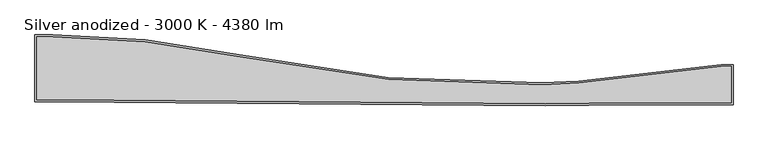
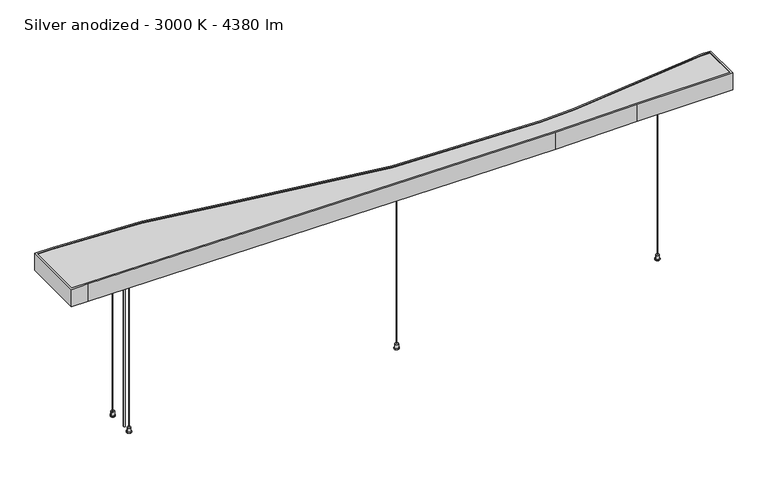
"""IFC4 building model written with IfcOpenShell, lengths in millimetres: light fixture geometry, KLUŚ - MIFOR - MI-WAVE-03 : Silver anodized - 3000 K - 4380 lm."""

import ifcopenshell
import ifcopenshell.guid

model = None  # the IFC model being written
_history = None  # IfcOwnerHistory: only IFC2X3 demands one
_inside = {}  # id of a spatial element -> (the spatial element, [elements in it])
_under = {}  # id of a project, library or spatial element -> (it, [spatial elements below it])
_declared = {}  # id of a project -> (the project, [libraries it declares])
_typed = {}  # id of a type object -> (the type object, [elements of that type])
_made_of = {}  # id of a material, layer set ... -> (it, [elements and type objects made of it])


def new_model(schema):
    """Start an empty IFC model of exactly this schema.

    Asked for "IFC4X3", IfcOpenShell would pick the latest addendum, in which some entities
    have other attributes; the version numbers below select the first issue.
    IFC2X3 requires an IfcOwnerHistory on every rooted entity: one is made here for all.
    """
    global model, _history
    if schema == "IFC4X3":
        model = ifcopenshell.file(schema_version=(4, 3, 0, 0))
    else:
        model = ifcopenshell.file(schema=schema)
    _inside.clear()
    _under.clear()
    _declared.clear()
    _typed.clear()
    _made_of.clear()
    _history = None
    if model.schema == "IFC2X3":
        org = make("IfcOrganization", Name="unknown")
        user = make(
            "IfcPersonAndOrganization",
            ThePerson=make("IfcPerson", FamilyName="unknown"),
            TheOrganization=org,
        )
        app = make(
            "IfcApplication",
            ApplicationDeveloper=org,
            Version="unknown",
            ApplicationFullName="unknown",
            ApplicationIdentifier="unknown",
        )
        _history = make(
            "IfcOwnerHistory",
            OwningUser=user,
            OwningApplication=app,
            ChangeAction="ADDED",
            CreationDate=0,
        )
    return model


def make(cls, **values):
    """One entity of the class cls with the attributes given. An attribute that is None is left unset."""
    return model.create_entity(
        cls, **{name: value for name, value in values.items() if value is not None}
    )


def rooted(cls, **values):
    """An entity with a GlobalId (a new one), such as an element, a storey or a relation."""
    return make(cls, GlobalId=ifcopenshell.guid.new(), OwnerHistory=_history, **values)


def si_unit(unit_type, name, prefix=None):
    """IfcSIUnit, for example si_unit("LENGTHUNIT", "METRE", prefix="MILLI")."""
    return make("IfcSIUnit", UnitType=unit_type, Prefix=prefix, Name=name)


def assignment(units):
    """IfcUnitAssignment: the units of a project."""
    return None if units is None else make("IfcUnitAssignment", Units=units)


def point(xyz):
    """IfcCartesianPoint."""
    return None if xyz is None else make("IfcCartesianPoint", Coordinates=xyz)


def direction(xyz):
    """IfcDirection."""
    return None if xyz is None else make("IfcDirection", DirectionRatios=xyz)


def frame(location, z_axis=None, x_axis=None):
    """IfcAxis2Placement3D, a coordinate frame: its origin and axes. An axis left out is left unset."""
    return make(
        "IfcAxis2Placement3D",
        Location=point(location),
        Axis=direction(z_axis),
        RefDirection=direction(x_axis),
    )


def frame_2d(location, x_axis=None):
    """IfcAxis2Placement2D, a coordinate frame in the plane: its origin and x axis."""
    return make(
        "IfcAxis2Placement2D", Location=point(location), RefDirection=direction(x_axis)
    )


def origin():
    """The frame at (0, 0, 0) with its axes left unset."""
    return frame((0.0, 0.0, 0.0))


def origin_with_axes():
    """The frame at (0, 0, 0) with the z axis (0, 0, 1) and the x axis (1, 0, 0) written out."""
    return frame((0.0, 0.0, 0.0), z_axis=(0.0, 0.0, 1.0), x_axis=(1.0, 0.0, 0.0))


def place(relative_to, where):
    """IfcLocalPlacement: puts the frame where relative to a parent placement (None: the world)."""
    return make(
        "IfcLocalPlacement", PlacementRelTo=relative_to, RelativePlacement=where
    )


def context(
    kind, dimensions, precision=None, world=None, true_north=None, identifier=None
):
    """IfcGeometricRepresentationContext, for example the 3D "Model" context."""
    return make(
        "IfcGeometricRepresentationContext",
        ContextIdentifier=identifier,
        ContextType=kind,
        CoordinateSpaceDimension=dimensions,
        Precision=precision,
        WorldCoordinateSystem=world,
        TrueNorth=true_north,
    )


def project(units=None, contexts=None):
    """IfcProject with its units and contexts."""
    return rooted(
        "IfcProject",
        Name="project",
        RepresentationContexts=contexts,
        UnitsInContext=assignment(units),
    )


def spatial(cls, under=None, at=None, **own):
    """A site, building, storey or space (cls), placed at a placement, below another one or the project."""
    s = rooted(cls, ObjectPlacement=at, **own)
    if under is not None:
        _under.setdefault(under.id(), (under, []))[1].append(s)
    return s


def polyline(points):
    """IfcPolyline through the points."""
    return make("IfcPolyline", Points=[point(p) for p in points])


def circle_curve(where, radius):
    """IfcCircle in the frame where."""
    return make("IfcCircle", Position=where, Radius=radius)


def trimmed(basis, trim1, trim2, sense, master):
    """IfcTrimmedCurve: the piece of a basis curve between two trims."""
    return make(
        "IfcTrimmedCurve",
        BasisCurve=basis,
        Trim1=trim1,
        Trim2=trim2,
        SenseAgreement=sense,
        MasterRepresentation=master,
    )


def segment(curve, same_sense, transition):
    """IfcCompositeCurveSegment."""
    return make(
        "IfcCompositeCurveSegment",
        Transition=transition,
        SameSense=same_sense,
        ParentCurve=curve,
    )


def composite_curve(segments, self_intersect=None):
    """IfcCompositeCurve: segments joined end to end."""
    return make("IfcCompositeCurve", Segments=segments, SelfIntersect=self_intersect)


def outline(outer, holes=None, kind="AREA"):
    """IfcArbitraryClosedProfileDef: a profile drawn as a closed curve; with holes, ...WithVoids."""
    if holes is None:
        return make("IfcArbitraryClosedProfileDef", ProfileType=kind, OuterCurve=outer)
    return make(
        "IfcArbitraryProfileDefWithVoids",
        ProfileType=kind,
        OuterCurve=outer,
        InnerCurves=holes,
    )


def extrude(swept, where, along, depth):
    """IfcExtrudedAreaSolid: the profile swept, set in the frame where, extruded along a direction by depth."""
    return make(
        "IfcExtrudedAreaSolid",
        SweptArea=swept,
        Position=where,
        ExtrudedDirection=direction(along),
        Depth=depth,
    )


def shape(context_of_items, identifier, shape_type, items):
    """IfcShapeRepresentation: the items that make up one representation, for example the "Body"."""
    return make(
        "IfcShapeRepresentation",
        ContextOfItems=context_of_items,
        RepresentationIdentifier=identifier,
        RepresentationType=shape_type,
        Items=items,
    )


def source(mapping_origin, context_of_items, identifier, shape_type, items):
    """IfcRepresentationMap: a shape defined once, which mapped items show again and again."""
    return make(
        "IfcRepresentationMap",
        MappingOrigin=mapping_origin,
        MappedRepresentation=shape(context_of_items, identifier, shape_type, items),
    )


def transform(
    local_origin,
    x_axis=None,
    y_axis=None,
    z_axis=None,
    scale=None,
    scale2=None,
    scale3=None,
    uniform=True,
):
    """IfcCartesianTransformationOperator3D, or its non-uniform kind. x_axis, y_axis, z_axis: its Axis1, 2, 3."""
    if uniform:
        return make(
            "IfcCartesianTransformationOperator3D",
            Axis1=direction(x_axis),
            Axis2=direction(y_axis),
            LocalOrigin=point(local_origin),
            Scale=scale,
            Axis3=direction(z_axis),
        )
    return make(
        "IfcCartesianTransformationOperator3DnonUniform",
        Axis1=direction(x_axis),
        Axis2=direction(y_axis),
        LocalOrigin=point(local_origin),
        Scale=scale,
        Axis3=direction(z_axis),
        Scale2=scale2,
        Scale3=scale3,
    )


def mapped(mapping_source, mapping_target):
    """IfcMappedItem: shows the shape of a source again, moved by a transform."""
    return make(
        "IfcMappedItem", MappingSource=mapping_source, MappingTarget=mapping_target
    )


def made_of(thing, what):
    """Note that an element or type object is made of a material, layer set ...; save() writes the relation."""
    if what is not None:
        _made_of.setdefault(what.id(), (what, []))[1].append(thing)
    return thing


def element(
    cls,
    number,
    at=None,
    inside=None,
    cuts=None,
    type_object=None,
    material=None,
    context=None,
    identifier="Body",
    shape_type=None,
    held_by="IfcProductDefinitionShape",
    body=None,
    shapes=None,
    **own,
):
    """One element of the class cls, such as IfcWall. Its Tag is "e" and its number.

    at: its placement. inside: the storey or other place that contains it. cuts: it is an
    opening in that element (IfcRelVoidsElement). A single representation is given by context,
    identifier, shape_type and body (its items); several are given by shapes. held_by: the class
    of the entity that holds the representations. save() writes the other relations.
    """
    e = rooted(cls, Tag="e%d" % number, ObjectPlacement=at, **own)
    if body is not None:
        shapes = [shape(context, identifier, shape_type, body)]
    if shapes is not None:
        e.Representation = make(held_by, Representations=shapes)
    if inside is not None:
        _inside.setdefault(inside.id(), (inside, []))[1].append(e)
    if cuts is not None:
        rooted(
            "IfcRelVoidsElement", RelatingBuildingElement=cuts, RelatedOpeningElement=e
        )
    if type_object is not None:
        _typed.setdefault(type_object.id(), (type_object, []))[1].append(e)
    return made_of(e, material)


def aggregate(whole, parts):
    """IfcRelAggregates: a whole, such as a stair, and the parts it consists of."""
    return rooted("IfcRelAggregates", RelatingObject=whole, RelatedObjects=parts)


def save(model, path):
    """Write the relations noted so far, then the file.

    IfcRelAggregates (storeys below a building ...), IfcRelContainedInSpatialStructure (elements
    in a storey), IfcRelDefinesByType, IfcRelAssociatesMaterial and IfcRelDeclares: one each for
    every whole, place, type object, material and project.
    """
    for whole, parts in _under.values():
        aggregate(whole, parts)
    for where, things in _inside.values():
        rooted(
            "IfcRelContainedInSpatialStructure",
            RelatedElements=things,
            RelatingStructure=where,
        )
    for kind, things in _typed.values():
        rooted("IfcRelDefinesByType", RelatedObjects=things, RelatingType=kind)
    for what, things in _made_of.values():
        rooted("IfcRelAssociatesMaterial", RelatedObjects=things, RelatingMaterial=what)
    for by, libraries in _declared.values():
        rooted("IfcRelDeclares", RelatingContext=by, RelatedDefinitions=libraries)
    model.write(path)


def silver_anodized_3000_k_4380_lm_e77bd729(model_context):
    return source(origin(), model_context, "Body", "SweptSolid", [
        extrude(outline(composite_curve([segment(trimmed(circle_curve(frame_2d((798.5346536, -49.9128292)), 1.75), [point((800.2846536, -49.9128292))], [point((796.7846536, -49.9128292))], False, "CARTESIAN"), True, "CONTINUOUS"), segment(trimmed(circle_curve(frame_2d((798.5346536, -49.9128292)), 1.75), [point((796.7846536, -49.9128292))], [point((800.2846536, -49.9128292))], False, "CARTESIAN"), True, "CONTINUOUS")], self_intersect=False)), frame((0.0, 0.0, 500.5), z_axis=(0.0, 0.0, 1.0), x_axis=(1.0, 0.0, 0.0)), (0.0, 0.0, 1.0), 3.5),
        extrude(outline(composite_curve([segment(trimmed(circle_curve(frame_2d((1.4653464, -60.6044772)), 1.75), [point((3.2153464, -60.6044772))], [point((-0.2846536, -60.6044772))], False, "CARTESIAN"), True, "CONTINUOUS"), segment(trimmed(circle_curve(frame_2d((1.4653464, -60.6044772)), 1.75), [point((-0.2846536, -60.6044772))], [point((3.2153464, -60.6044772))], False, "CARTESIAN"), True, "CONTINUOUS")], self_intersect=False)), frame((0.0, 0.0, 500.5), z_axis=(0.0, 0.0, 1.0), x_axis=(1.0, 0.0, 0.0)), (0.0, 0.0, 1.0), 3.5),
        extrude(outline(composite_curve([segment(trimmed(circle_curve(frame_2d((-798.5346536, -40.427927)), 1.75), [point((-796.7846536, -40.427927))], [point((-800.2846536, -40.427927))], False, "CARTESIAN"), True, "CONTINUOUS"), segment(trimmed(circle_curve(frame_2d((-798.5346536, -40.427927)), 1.75), [point((-800.2846536, -40.427927))], [point((-796.7846536, -40.427927))], False, "CARTESIAN"), True, "CONTINUOUS")], self_intersect=False)), frame((0.0, 0.0, 500.5), z_axis=(0.0, 0.0, 1.0), x_axis=(1.0, 0.0, 0.0)), (0.0, 0.0, 1.0), 3.5),
        extrude(outline(composite_curve([segment(trimmed(circle_curve(frame_2d((-798.5346536, 45.0836775)), 1.75), [point((-796.7846536, 45.0836775))], [point((-800.2846536, 45.0836775))], False, "CARTESIAN"), True, "CONTINUOUS"), segment(trimmed(circle_curve(frame_2d((-798.5346536, 45.0836775)), 1.75), [point((-800.2846536, 45.0836775))], [point((-796.7846536, 45.0836775))], False, "CARTESIAN"), True, "CONTINUOUS")], self_intersect=False)), frame((0.0, 0.0, 500.5), z_axis=(0.0, 0.0, 1.0), x_axis=(1.0, 0.0, 0.0)), (0.0, 0.0, 1.0), 3.5),
        extrude(outline(composite_curve([segment(trimmed(circle_curve(frame_2d((798.5346536, -49.9128292)), 5.0), [point((803.5346536, -49.9128292))], [point((793.5346536, -49.9128292))], False, "CARTESIAN"), True, "CONTINUOUS"), segment(trimmed(circle_curve(frame_2d((798.5346536, -49.9128292)), 5.0), [point((793.5346536, -49.9128292))], [point((803.5346536, -49.9128292))], False, "CARTESIAN"), True, "CONTINUOUS")], self_intersect=False)), frame((0.0, 0.0, 3.0), z_axis=(0.0, 0.0, 1.0), x_axis=(1.0, 0.0, 0.0)), (0.0, 0.0, 1.0), 12.0),
        extrude(outline(composite_curve([segment(trimmed(circle_curve(frame_2d((1.4653464, -60.6044772)), 5.0), [point((6.4653464, -60.6044772))], [point((-3.5346536, -60.6044772))], False, "CARTESIAN"), True, "CONTINUOUS"), segment(trimmed(circle_curve(frame_2d((1.4653464, -60.6044772)), 5.0), [point((-3.5346536, -60.6044772))], [point((6.4653464, -60.6044772))], False, "CARTESIAN"), True, "CONTINUOUS")], self_intersect=False)), frame((0.0, 0.0, 3.0), z_axis=(0.0, 0.0, 1.0), x_axis=(1.0, 0.0, 0.0)), (0.0, 0.0, 1.0), 12.0),
        extrude(outline(composite_curve([segment(trimmed(circle_curve(frame_2d((-798.5346536, -40.427927)), 5.0), [point((-793.5346536, -40.427927))], [point((-803.5346536, -40.427927))], False, "CARTESIAN"), True, "CONTINUOUS"), segment(trimmed(circle_curve(frame_2d((-798.5346536, -40.427927)), 5.0), [point((-803.5346536, -40.427927))], [point((-793.5346536, -40.427927))], False, "CARTESIAN"), True, "CONTINUOUS")], self_intersect=False)), frame((0.0, 0.0, 3.0), z_axis=(0.0, 0.0, 1.0), x_axis=(1.0, 0.0, 0.0)), (0.0, 0.0, 1.0), 12.0),
        extrude(outline(composite_curve([segment(trimmed(circle_curve(frame_2d((-798.5346536, 45.0836775)), 5.0), [point((-793.5346536, 45.0836775))], [point((-803.5346536, 45.0836775))], False, "CARTESIAN"), True, "CONTINUOUS"), segment(trimmed(circle_curve(frame_2d((-798.5346536, 45.0836775)), 5.0), [point((-803.5346536, 45.0836775))], [point((-793.5346536, 45.0836775))], False, "CARTESIAN"), True, "CONTINUOUS")], self_intersect=False)), frame((0.0, 0.0, 3.0), z_axis=(0.0, 0.0, 1.0), x_axis=(1.0, 0.0, 0.0)), (0.0, 0.0, 1.0), 12.0),
        extrude(outline(composite_curve([segment(trimmed(circle_curve(frame_2d((-795.9078098, -12.0152629)), 2.5), [point((-793.4078098, -12.0152629))], [point((-798.4078098, -12.0152629))], False, "CARTESIAN"), True, "CONTINUOUS"), segment(trimmed(circle_curve(frame_2d((-795.9078098, -12.0152629)), 2.5), [point((-798.4078098, -12.0152629))], [point((-793.4078098, -12.0152629))], False, "CARTESIAN"), True, "CONTINUOUS")], self_intersect=False)), origin_with_axes(), (0.0, 0.0, 1.0), 516.0),
        extrude(outline(composite_curve([segment(polyline([(-995.0346536, 99.4565362), (-948.5346536, 99.4565362)]), True, "CONTINUOUS"), segment(trimmed(circle_curve(frame_2d((-948.5346536, -2397.0434638)), 2496.5), [point((-948.5346536, 99.4565362))], [point((-423.9619572, 43.7219359))], False, "CARTESIAN"), True, "CONTINUOUS"), segment(trimmed(circle_curve(frame_2d((354.2295033, 3664.5409456)), 3703.5), [point((-423.9619572, 43.7219359))], [point((452.6794707, -37.6502777))], True, "CARTESIAN"), True, "CONTINUOUS"), segment(trimmed(circle_curve(frame_2d((386.1290472, 2464.9650126)), 2503.5), [point((452.6794707, -37.6502777))], [point((558.7872546, -32.5740549))], True, "CARTESIAN"), True, "CONTINUOUS"), segment(trimmed(circle_curve(frame_2d((264.0579359, 4230.7505725)), 4273.5), [point((558.7872546, -32.5740549))], [point((941.2737307, 11.2504816))], True, "CARTESIAN"), True, "CONTINUOUS"), segment(trimmed(circle_curve(frame_2d((981.9209405, -242.0083866)), 256.5), [point((941.2737307, 11.2504816))], [point((965.77489, 13.9829317))], False, "CARTESIAN"), True, "CONTINUOUS"), segment(trimmed(circle_curve(frame_2d((978.1440866, -182.1273765)), 196.5), [point((965.77489, 13.9829317))], [point((978.1440866, 14.3726235))], False, "CARTESIAN"), True, "CONTINUOUS"), segment(polyline([(978.1440866, 14.3726235), (995.0346536, 14.3726235), (995.0346536, -90.3611298), (711.389474, -90.3611298)]), True, "CONTINUOUS"), segment(trimmed(circle_curve(frame_2d((711.389474, -10713.4705848)), 10623.1094551), [point((711.389474, -90.3611298))], [point((461.6884213, -93.296204))], True, "CARTESIAN"), True, "CONTINUOUS"), segment(trimmed(circle_curve(frame_2d((-62.4010221, 22197.0434654)), 22296.5000016), [point((461.6884213, -93.296204))], [point((-948.3657897, -81.8474126))], False, "CARTESIAN"), True, "CONTINUOUS"), segment(trimmed(circle_curve(frame_2d((-974.2995606, -733.9903363)), 652.6583742), [point((-948.3657897, -81.8474126))], [point((-995.0346536, -81.6614244))], True, "CARTESIAN"), True, "CONTINUOUS"), segment(polyline([(-995.0346536, -81.6614244), (-995.0346536, 99.4565362)]), True, "CONTINUOUS")], self_intersect=False)), frame((0.0, 0.0, 516.0), z_axis=(0.0, 0.0, 1.0), x_axis=(1.0, 0.0, 0.0)), (0.0, 0.0, 1.0), 2.0),
        extrude(outline(composite_curve([segment(polyline([(-995.0346536, 99.4565362), (-948.5346536, 99.4565362)]), True, "CONTINUOUS"), segment(trimmed(circle_curve(frame_2d((-948.5346536, -2397.0434638)), 2496.5), [point((-948.5346536, 99.4565362))], [point((-423.9619572, 43.7219359))], False, "CARTESIAN"), True, "CONTINUOUS"), segment(trimmed(circle_curve(frame_2d((354.2295033, 3664.5409456)), 3703.5), [point((-423.9619572, 43.7219359))], [point((452.6794707, -37.6502777))], True, "CARTESIAN"), True, "CONTINUOUS"), segment(trimmed(circle_curve(frame_2d((386.1290472, 2464.9650126)), 2503.5), [point((452.6794707, -37.6502777))], [point((558.7872546, -32.5740549))], True, "CARTESIAN"), True, "CONTINUOUS"), segment(trimmed(circle_curve(frame_2d((264.0579359, 4230.7505725)), 4273.5), [point((558.7872546, -32.5740549))], [point((941.2737307, 11.2504816))], True, "CARTESIAN"), True, "CONTINUOUS"), segment(trimmed(circle_curve(frame_2d((981.9209405, -242.0083866)), 256.5), [point((941.2737307, 11.2504816))], [point((965.77489, 13.9829317))], False, "CARTESIAN"), True, "CONTINUOUS"), segment(trimmed(circle_curve(frame_2d((978.1440866, -182.1273765)), 196.5), [point((965.77489, 13.9829317))], [point((978.1440866, 14.3726235))], False, "CARTESIAN"), True, "CONTINUOUS"), segment(polyline([(978.1440866, 14.3726235), (995.0346536, 14.3726235), (995.0346536, -90.3611298), (711.389474, -90.3611298)]), True, "CONTINUOUS"), segment(trimmed(circle_curve(frame_2d((711.389474, -10713.4705848)), 10623.1094551), [point((711.389474, -90.3611298))], [point((461.6884213, -93.296204))], True, "CARTESIAN"), True, "CONTINUOUS"), segment(trimmed(circle_curve(frame_2d((-62.4010221, 22197.0434654)), 22296.5000016), [point((461.6884213, -93.296204))], [point((-948.3657897, -81.8474126))], False, "CARTESIAN"), True, "CONTINUOUS"), segment(trimmed(circle_curve(frame_2d((-974.2995606, -733.9903363)), 652.6583742), [point((-948.3657897, -81.8474126))], [point((-995.0346536, -81.6614244))], True, "CARTESIAN"), True, "CONTINUOUS"), segment(polyline([(-995.0346536, -81.6614244), (-995.0346536, 99.4565362)]), True, "CONTINUOUS")], self_intersect=False)), frame((0.0, 0.0, 551.0), z_axis=(0.0, 0.0, 1.0), x_axis=(1.0, 0.0, 0.0)), (0.0, 0.0, 1.0), 2.0),
        extrude(outline(composite_curve([segment(polyline([(-1000.0346536, 104.4565362), (-948.5346536, 104.4565362)]), True, "CONTINUOUS"), segment(trimmed(circle_curve(frame_2d((-948.5346536, -2397.0434638)), 2501.5), [point((-948.5346536, 104.4565362))], [point((-422.911341, 48.6103104))], False, "CARTESIAN"), True, "CONTINUOUS"), segment(trimmed(circle_curve(frame_2d((354.2295033, 3664.5409456)), 3698.5), [point((-422.911341, 48.6103104))], [point((452.5465559, -32.6520447))], True, "CARTESIAN"), True, "CONTINUOUS"), segment(trimmed(circle_curve(frame_2d((386.1290472, 2464.9650126)), 2498.5), [point((452.5465559, -32.6520447))], [point((558.4424209, -27.5859601))], True, "CARTESIAN"), True, "CONTINUOUS"), segment(trimmed(circle_curve(frame_2d((264.0579359, 4230.7505725)), 4268.5), [point((558.4424209, -27.5859601))], [point((940.4813874, 16.1873016))], True, "CARTESIAN"), True, "CONTINUOUS"), segment(trimmed(circle_curve(frame_2d((981.9209405, -242.0083866)), 261.5), [point((940.4813874, 16.1873016))], [point((965.4601521, 18.9730159))], False, "CARTESIAN"), True, "CONTINUOUS"), segment(trimmed(circle_curve(frame_2d((978.1440866, -182.1273765)), 201.5), [point((965.4601521, 18.9730159))], [point((978.1440866, 19.3726235))], False, "CARTESIAN"), True, "CONTINUOUS"), segment(polyline([(978.1440866, 19.3726235), (1000.0346536, 19.3726235), (1000.0346536, -95.3611298), (711.389474, -95.3611298)]), True, "CONTINUOUS"), segment(trimmed(circle_curve(frame_2d((711.389474, -10713.4705848)), 10618.1094551), [point((711.389474, -95.3611298))], [point((461.8059486, -98.2948226))], True, "CARTESIAN"), True, "CONTINUOUS"), segment(trimmed(circle_curve(frame_2d((-62.4010221, 22197.0434654)), 22301.5000016), [point((461.8059486, -98.2948226))], [point((-948.5644676, -86.8434638))], False, "CARTESIAN"), True, "CONTINUOUS"), segment(trimmed(circle_curve(frame_2d((-974.2995606, -733.9903363)), 647.6583742), [point((-948.5644676, -86.8434638))], [point((-1000.0346536, -86.8434638))], True, "CARTESIAN"), True, "CONTINUOUS"), segment(polyline([(-1000.0346536, -86.8434638), (-1000.0346536, 104.4565362)]), True, "CONTINUOUS")], self_intersect=False), holes=[composite_curve([segment(polyline([(-995.0346536, 99.4565362), (-995.0346536, -81.6614244)]), True, "CONTINUOUS"), segment(trimmed(circle_curve(frame_2d((-974.2995606, -733.9903363)), 652.6583742), [point((-995.0346536, -81.6614244))], [point((-948.3657897, -81.8474126))], False, "CARTESIAN"), True, "CONTINUOUS"), segment(trimmed(circle_curve(frame_2d((-62.4010221, 22197.0434654)), 22296.5000016), [point((-948.3657897, -81.8474126))], [point((461.6884213, -93.296204))], True, "CARTESIAN"), True, "CONTINUOUS"), segment(trimmed(circle_curve(frame_2d((711.389474, -10713.4705848)), 10623.1094551), [point((461.6884213, -93.296204))], [point((711.389474, -90.3611298))], False, "CARTESIAN"), True, "CONTINUOUS"), segment(polyline([(711.389474, -90.3611298), (995.0346536, -90.3611298), (995.0346536, 14.3726235), (978.1440866, 14.3726235)]), True, "CONTINUOUS"), segment(trimmed(circle_curve(frame_2d((978.1440866, -182.1273765)), 196.5), [point((978.1440866, 14.3726235))], [point((965.77489, 13.9829317))], True, "CARTESIAN"), True, "CONTINUOUS"), segment(trimmed(circle_curve(frame_2d((981.9209405, -242.0083866)), 256.5), [point((965.77489, 13.9829317))], [point((941.2737307, 11.2504816))], True, "CARTESIAN"), True, "CONTINUOUS"), segment(trimmed(circle_curve(frame_2d((264.0579359, 4230.7505725)), 4273.5), [point((941.2737307, 11.2504816))], [point((558.7872546, -32.5740549))], False, "CARTESIAN"), True, "CONTINUOUS"), segment(trimmed(circle_curve(frame_2d((386.1290472, 2464.9650126)), 2503.5), [point((558.7872546, -32.5740549))], [point((452.6794707, -37.6502777))], False, "CARTESIAN"), True, "CONTINUOUS"), segment(trimmed(circle_curve(frame_2d((354.2295033, 3664.5409456)), 3703.5), [point((452.6794707, -37.6502777))], [point((-423.9619572, 43.7219359))], False, "CARTESIAN"), True, "CONTINUOUS"), segment(trimmed(circle_curve(frame_2d((-948.5346536, -2397.0434638)), 2496.5), [point((-423.9619572, 43.7219359))], [point((-948.5346536, 99.4565362))], True, "CARTESIAN"), True, "CONTINUOUS"), segment(polyline([(-948.5346536, 99.4565362), (-995.0346536, 99.4565362)]), True, "CONTINUOUS")], self_intersect=False)]), frame((0.0, 0.0, 500.0), z_axis=(0.0, 0.0, 1.0), x_axis=(1.0, 0.0, 0.0)), (0.0, 0.0, 1.0), 55.0),
        extrude(outline(composite_curve([segment(trimmed(circle_curve(frame_2d((798.5346536, -49.9128292)), 0.5), [point((799.0346536, -49.9128292))], [point((798.0346536, -49.9128292))], False, "CARTESIAN"), True, "CONTINUOUS"), segment(trimmed(circle_curve(frame_2d((798.5346536, -49.9128292)), 0.5), [point((798.0346536, -49.9128292))], [point((799.0346536, -49.9128292))], False, "CARTESIAN"), True, "CONTINUOUS")], self_intersect=False)), frame((0.0, 0.0, 15.0), z_axis=(0.0, 0.0, 1.0), x_axis=(1.0, 0.0, 0.0)), (0.0, 0.0, 1.0), 485.5),
        extrude(outline(composite_curve([segment(trimmed(circle_curve(frame_2d((1.4653464, -60.6044772)), 0.5), [point((1.9653464, -60.6044772))], [point((0.9653464, -60.6044772))], False, "CARTESIAN"), True, "CONTINUOUS"), segment(trimmed(circle_curve(frame_2d((1.4653464, -60.6044772)), 0.5), [point((0.9653464, -60.6044772))], [point((1.9653464, -60.6044772))], False, "CARTESIAN"), True, "CONTINUOUS")], self_intersect=False)), frame((0.0, 0.0, 15.0), z_axis=(0.0, 0.0, 1.0), x_axis=(1.0, 0.0, 0.0)), (0.0, 0.0, 1.0), 485.5),
        extrude(outline(composite_curve([segment(trimmed(circle_curve(frame_2d((-798.5346536, -40.427927)), 0.5), [point((-798.0346536, -40.427927))], [point((-799.0346536, -40.427927))], False, "CARTESIAN"), True, "CONTINUOUS"), segment(trimmed(circle_curve(frame_2d((-798.5346536, -40.427927)), 0.5), [point((-799.0346536, -40.427927))], [point((-798.0346536, -40.427927))], False, "CARTESIAN"), True, "CONTINUOUS")], self_intersect=False)), frame((0.0, 0.0, 15.0), z_axis=(0.0, 0.0, 1.0), x_axis=(1.0, 0.0, 0.0)), (0.0, 0.0, 1.0), 485.5),
        extrude(outline(composite_curve([segment(trimmed(circle_curve(frame_2d((-798.5346536, 45.0836775)), 0.5), [point((-798.0346536, 45.0836775))], [point((-799.0346536, 45.0836775))], False, "CARTESIAN"), True, "CONTINUOUS"), segment(trimmed(circle_curve(frame_2d((-798.5346536, 45.0836775)), 0.5), [point((-799.0346536, 45.0836775))], [point((-798.0346536, 45.0836775))], False, "CARTESIAN"), True, "CONTINUOUS")], self_intersect=False)), frame((0.0, 0.0, 15.0), z_axis=(0.0, 0.0, 1.0), x_axis=(1.0, 0.0, 0.0)), (0.0, 0.0, 1.0), 485.5),
        extrude(outline(composite_curve([segment(trimmed(circle_curve(frame_2d((798.5346536, -49.9128292)), 4.0), [point((802.5346536, -49.9128292))], [point((794.5346536, -49.9128292))], False, "CARTESIAN"), True, "CONTINUOUS"), segment(trimmed(circle_curve(frame_2d((798.5346536, -49.9128292)), 4.0), [point((794.5346536, -49.9128292))], [point((802.5346536, -49.9128292))], False, "CARTESIAN"), True, "CONTINUOUS")], self_intersect=False)), frame((0.0, 0.0, 504.0), z_axis=(0.0, 0.0, 1.0), x_axis=(1.0, 0.0, 0.0)), (0.0, 0.0, 1.0), 12.0),
        extrude(outline(composite_curve([segment(trimmed(circle_curve(frame_2d((1.4653464, -60.6044772)), 4.0), [point((5.4653464, -60.6044772))], [point((-2.5346536, -60.6044772))], False, "CARTESIAN"), True, "CONTINUOUS"), segment(trimmed(circle_curve(frame_2d((1.4653464, -60.6044772)), 4.0), [point((-2.5346536, -60.6044772))], [point((5.4653464, -60.6044772))], False, "CARTESIAN"), True, "CONTINUOUS")], self_intersect=False)), frame((0.0, 0.0, 504.0), z_axis=(0.0, 0.0, 1.0), x_axis=(1.0, 0.0, 0.0)), (0.0, 0.0, 1.0), 12.0),
        extrude(outline(composite_curve([segment(trimmed(circle_curve(frame_2d((-798.5346536, -40.427927)), 4.0), [point((-794.5346536, -40.427927))], [point((-802.5346536, -40.427927))], False, "CARTESIAN"), True, "CONTINUOUS"), segment(trimmed(circle_curve(frame_2d((-798.5346536, -40.427927)), 4.0), [point((-802.5346536, -40.427927))], [point((-794.5346536, -40.427927))], False, "CARTESIAN"), True, "CONTINUOUS")], self_intersect=False)), frame((0.0, 0.0, 504.0), z_axis=(0.0, 0.0, 1.0), x_axis=(1.0, 0.0, 0.0)), (0.0, 0.0, 1.0), 12.0),
        extrude(outline(composite_curve([segment(trimmed(circle_curve(frame_2d((-798.5346536, 45.0836775)), 4.0), [point((-794.5346536, 45.0836775))], [point((-802.5346536, 45.0836775))], False, "CARTESIAN"), True, "CONTINUOUS"), segment(trimmed(circle_curve(frame_2d((-798.5346536, 45.0836775)), 4.0), [point((-802.5346536, 45.0836775))], [point((-794.5346536, 45.0836775))], False, "CARTESIAN"), True, "CONTINUOUS")], self_intersect=False)), frame((0.0, 0.0, 504.0), z_axis=(0.0, 0.0, 1.0), x_axis=(1.0, 0.0, 0.0)), (0.0, 0.0, 1.0), 12.0),
        extrude(outline(composite_curve([segment(trimmed(circle_curve(frame_2d((798.5346536, -49.9128292)), 7.0), [point((805.5346536, -49.9128292))], [point((791.5346536, -49.9128292))], False, "CARTESIAN"), True, "CONTINUOUS"), segment(trimmed(circle_curve(frame_2d((798.5346536, -49.9128292)), 7.0), [point((791.5346536, -49.9128292))], [point((805.5346536, -49.9128292))], False, "CARTESIAN"), True, "CONTINUOUS")], self_intersect=False)), origin_with_axes(), (0.0, 0.0, 1.0), 3.0),
        extrude(outline(composite_curve([segment(trimmed(circle_curve(frame_2d((1.4653464, -60.6044772)), 7.0), [point((8.4653464, -60.6044772))], [point((-5.5346536, -60.6044772))], False, "CARTESIAN"), True, "CONTINUOUS"), segment(trimmed(circle_curve(frame_2d((1.4653464, -60.6044772)), 7.0), [point((-5.5346536, -60.6044772))], [point((8.4653464, -60.6044772))], False, "CARTESIAN"), True, "CONTINUOUS")], self_intersect=False)), origin_with_axes(), (0.0, 0.0, 1.0), 3.0),
        extrude(outline(composite_curve([segment(trimmed(circle_curve(frame_2d((-798.5346536, -40.427927)), 7.0), [point((-791.5346536, -40.427927))], [point((-805.5346536, -40.427927))], False, "CARTESIAN"), True, "CONTINUOUS"), segment(trimmed(circle_curve(frame_2d((-798.5346536, -40.427927)), 7.0), [point((-805.5346536, -40.427927))], [point((-791.5346536, -40.427927))], False, "CARTESIAN"), True, "CONTINUOUS")], self_intersect=False)), origin_with_axes(), (0.0, 0.0, 1.0), 3.0),
        extrude(outline(composite_curve([segment(trimmed(circle_curve(frame_2d((-798.5346536, 45.0836775)), 7.0), [point((-791.5346536, 45.0836775))], [point((-805.5346536, 45.0836775))], False, "CARTESIAN"), True, "CONTINUOUS"), segment(trimmed(circle_curve(frame_2d((-798.5346536, 45.0836775)), 7.0), [point((-805.5346536, 45.0836775))], [point((-791.5346536, 45.0836775))], False, "CARTESIAN"), True, "CONTINUOUS")], self_intersect=False)), origin_with_axes(), (0.0, 0.0, 1.0), 3.0),
    ])


if __name__ == "__main__":
    model = new_model("IFC4")
    model_context = context("Model", 3, world=origin())
    ifc_project = project(units=[si_unit("LENGTHUNIT", "METRE", prefix="MILLI")], contexts=[model_context])
    site = spatial("IfcSite", under=ifc_project)
    building = spatial("IfcBuilding", under=site)
    placement = place(None, origin())
    silver_anodized_3000_k_4380_lm_shape = silver_anodized_3000_k_4380_lm_e77bd729(model_context)
    element("IfcLightFixture", 1, ObjectType="KLUŚ - MIFOR - MI-WAVE-03 : Silver anodized - 3000 K - 4380 lm", at=placement, inside=building, context=model_context, shape_type="MappedRepresentation", body=[
        mapped(silver_anodized_3000_k_4380_lm_shape, transform((0.0, 0.0, 0.0), x_axis=(1.0, 0.0, 0.0), y_axis=(0.0, 1.0, 0.0), z_axis=(0.0, 0.0, 1.0))),
    ])
    save(model, "model.ifc")
